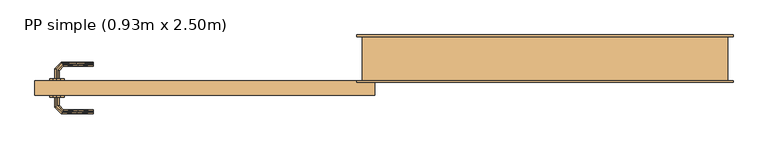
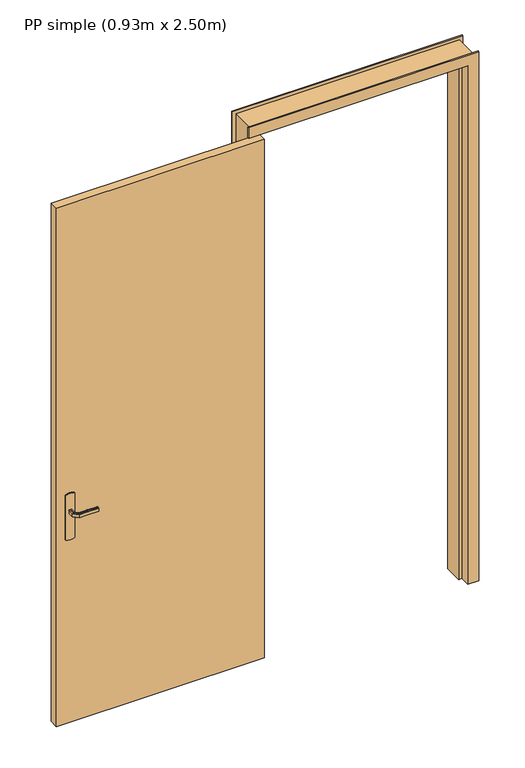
"""IFC4 building model written with IfcOpenShell, lengths in millimetres: door geometry, PP simple (0.93m x 2.50m)."""

from ifc_helpers import new_model, si_unit, frame, origin, origin_with_axes, place, context, project, spatial, polyline, outline, extrude, faceted_brep, source, transform, mapped, element, save


def pp_simple_0_93m_x_2_50m_d067f430(model_context):
    return source(origin(), model_context, "Body", "SolidModel", [
        faceted_brep([(1070.0, 120.0, 0.0), (1070.0, 0.0, 0.0), (1085.0, 0.0, 0.0), (1085.0, -5.0, 0.0), (1035.0, -5.0, 0.0), (1035.0, 40.0, 0.0), (1020.0, 40.0, 0.0), (1020.0, 125.0, 0.0), (1085.0, 125.0, 0.0), (1085.0, 120.0, 0.0), (1070.0, 120.0, 2485.0), (1070.0, 0.0, 2485.0), (1085.0, 120.0, 2500.0), (55.0, 120.0, 2500.0), (55.0, 120.0, 0.0), (70.0, 120.0, 0.0), (70.0, 120.0, 2485.0), (1020.0, 40.0, 2435.0), (1020.0, 125.0, 2435.0), (1035.0, 40.0, 2450.0), (105.0, 40.0, 2450.0), (105.0, 40.0, 0.0), (120.0, 40.0, 0.0), (120.0, 40.0, 2435.0), (70.0, 0.0, 0.0), (70.0, 0.0, 2485.0), (55.0, 125.0, 0.0), (120.0, 125.0, 0.0), (105.0, -5.0, 0.0), (55.0, -5.0, 0.0), (55.0, 0.0, 0.0), (120.0, 125.0, 2435.0), (1035.0, -5.0, 2450.0), (1085.0, -5.0, 2500.0), (55.0, -5.0, 2500.0), (105.0, -5.0, 2450.0), (1085.0, 0.0, 2500.0), (55.0, 0.0, 2500.0), (1085.0, 125.0, 2500.0), (55.0, 125.0, 2500.0)], [[[0, 1, 2, 3, 4, 5, 6, 7, 8, 9]], [[0, 10, 11, 1]], [[9, 12, 13, 14, 15, 16, 10, 0]], [[7, 6, 17, 18]], [[5, 19, 20, 21, 22, 23, 17, 6]], [[16, 15, 24, 25]], [[15, 14, 26, 27, 22, 21, 28, 29, 30, 24]], [[23, 22, 27, 31]], [[10, 16, 25, 11]], [[17, 23, 31, 18]], [[5, 4, 32, 19]], [[3, 33, 34, 29, 28, 35, 32, 4]], [[2, 36, 33, 3]], [[1, 11, 25, 24, 30, 37, 36, 2]], [[8, 38, 12, 9]], [[7, 18, 31, 27, 26, 39, 38, 8]], [[35, 28, 21, 20]], [[37, 30, 29, 34]], [[39, 26, 14, 13]], [[32, 35, 20, 19]], [[36, 37, 34, 33]], [[38, 39, 13, 12]]]),
        faceted_brep([(-762.9747013, -45.0, 992.2195592), (-767.0252987, -45.0, 992.2195592), (-771.0, -45.0, 993.0), (-771.0, -45.0, 1007.0), (-767.0252987, -45.0, 1007.7804408), (-762.9747013, -45.0, 1007.7804408), (-759.0, -45.0, 1007.0), (-759.0, -45.0, 993.0), (-759.0, -67.4852045, 1007.0), (-759.0, -67.4852045, 993.0), (-762.9747013, -69.1315797, 1007.7804408), (-767.0252987, -70.8093921, 1007.7804408), (-750.8389062, -86.9957845, 1007.7804408), (-749.1610938, -82.9451872, 1007.7804408), (-771.0, -72.4557673, 1007.0), (-771.0, -72.4557673, 993.0), (-767.0252987, -70.8093921, 992.2195592), (-762.9747013, -69.1315797, 992.2195592), (-749.1610938, -82.9451872, 992.2195592), (-750.8389062, -86.9957845, 992.2195592), (-747.5147186, -78.9704859, 1007.0), (-747.5147186, -78.9704859, 993.0), (-752.4852814, -90.9704859, 1007.0), (-752.4852814, -90.9704859, 993.0), (-664.9542163, -82.9451872, 1007.7804408), (-664.9542163, -86.9957845, 1007.7804408), (-664.9542163, -90.9704859, 1007.0), (-664.9542163, -90.9704859, 993.0), (-664.9542163, -86.9957845, 992.2195592), (-664.9542163, -82.9451872, 992.2195592), (-664.9542163, -78.9704859, 993.0), (-664.9542163, -78.9704859, 1007.0), (-706.2344675, -78.9704859, 1007.0), (-706.2344794, -78.9704859, 993.0), (-707.0576551, -84.9704859, 1007.8786868), (-712.5547942, -90.9704859, 1007.0), (-712.5547957, -90.9704859, 993.0), (-707.0576549, -84.9704858, 992.1213132)], [[[0, 1, 2, 3, 4, 5, 6, 7]], [[8, 9, 7, 6]], [[5, 10, 8, 6]], [[5, 4, 11, 12, 13, 10]], [[3, 14, 11, 4]], [[14, 3, 2, 15]], [[2, 1, 16, 15]], [[1, 0, 17, 18, 19, 16]], [[0, 7, 9, 17]], [[20, 21, 9, 8]], [[8, 10, 13, 20]], [[14, 22, 12, 11]], [[23, 22, 14, 15]], [[15, 16, 19, 23]], [[17, 9, 21, 18]], [[24, 25, 26, 27, 28, 29, 30, 31]], [[21, 20, 32, 31, 30, 33]], [[34, 24, 32]], [[25, 34, 35]], [[13, 32, 20]], [[24, 31, 32]], [[25, 35, 26]], [[35, 12, 22]], [[34, 12, 35]], [[34, 13, 12]], [[34, 32, 13]], [[24, 34, 25]], [[22, 23, 36, 27, 26, 35]], [[37, 28, 36]], [[36, 28, 27]], [[36, 23, 19]], [[18, 33, 37]], [[33, 18, 21]], [[30, 29, 33]], [[37, 29, 28]], [[37, 33, 29]], [[37, 36, 19]], [[18, 37, 19]]]),
        extrude(outline(polyline([(-825.0, -40.0), (-825.0, 0.0), (105.0, 0.0), (105.0, -40.0), (-825.0, -40.0)])), origin_with_axes(), (0.0, 0.0, 1.0), 2450.0),
        faceted_brep([(-762.9747013, 5.0, 1007.7804408), (-767.0252987, 5.0, 1007.7804408), (-771.0, 5.0, 1007.0), (-771.0, 5.0, 993.0), (-767.0252987, 5.0, 992.2195592), (-762.9747013, 5.0, 992.2195592), (-759.0, 5.0, 993.0), (-759.0, 5.0, 1007.0), (-767.0252987, 31.0045755, 1007.7804408), (-771.0, 32.6509507, 1007.0), (-762.9747013, 29.3267632, 1007.7804408), (-749.2986025, 43.002862, 1007.7804408), (-750.9764148, 47.0534593, 1007.7804408), (-759.0, 27.680388, 1007.0), (-759.0, 27.680388, 993.0), (-762.9747013, 29.3267632, 992.2195592), (-767.0252987, 31.0045755, 992.2195592), (-750.9764148, 47.0534593, 992.2195592), (-749.2986025, 43.002862, 992.2195592), (-771.0, 32.6509507, 993.0), (-752.62279, 51.0281607, 1007.0), (-747.6522273, 39.0281607, 1007.0), (-747.6522273, 39.0281607, 993.0), (-752.62279, 51.0281607, 993.0), (-664.9813594, 51.0281607, 1007.0), (-664.9813594, 47.0534593, 1007.7804408), (-664.9813594, 43.002862, 1007.7804408), (-664.9813594, 39.0281607, 1007.0), (-664.9813594, 39.0281607, 993.0), (-664.9813594, 43.002862, 992.2195592), (-664.9813594, 47.0534593, 992.2195592), (-664.9813594, 51.0281607, 993.0), (-707.1399809, 45.0281607, 1007.8786868), (-712.6923028, 51.0281607, 1007.0), (-706.3167933, 39.0281607, 1007.0), (-706.3167933, 39.0281607, 993.0), (-707.1399811, 45.0281608, 992.1213132), (-712.6923104, 51.0281607, 993.0)], [[[0, 1, 2, 3, 4, 5, 6, 7]], [[2, 1, 8, 9]], [[1, 0, 10, 11, 12, 8]], [[0, 7, 13, 10]], [[14, 13, 7, 6]], [[5, 15, 14, 6]], [[5, 4, 16, 17, 18, 15]], [[3, 19, 16, 4]], [[9, 19, 3, 2]], [[9, 8, 12, 20]], [[10, 13, 21, 11]], [[22, 21, 13, 14]], [[14, 15, 18, 22]], [[16, 19, 23, 17]], [[20, 23, 19, 9]], [[24, 25, 26, 27, 28, 29, 30, 31]], [[32, 25, 33]], [[33, 25, 24]], [[33, 20, 12]], [[11, 34, 32]], [[34, 11, 21]], [[27, 26, 34]], [[32, 26, 25]], [[32, 34, 26]], [[32, 33, 12]], [[11, 32, 12]], [[21, 22, 35, 28, 27, 34]], [[36, 29, 35]], [[30, 36, 37]], [[18, 35, 22]], [[29, 28, 35]], [[30, 37, 31]], [[37, 17, 23]], [[36, 17, 37]], [[36, 18, 17]], [[36, 35, 18]], [[29, 36, 30]], [[23, 20, 33, 24, 31, 37]]]),
        extrude(outline(polyline([(1085.3589838, -765.0), (1083.9960169, -775.3527618), (1080.0, -785.0), (870.0, -785.0), (866.0039831, -775.3527618), (864.6410162, -765.0), (866.0039831, -754.6472382), (870.0, -745.0), (1080.0, -745.0), (1083.9960169, -754.6472382), (1085.3589838, -765.0)])), frame((0.0, -45.0, 0.0), z_axis=(0.0, 1.0, 0.0), x_axis=(0.0, 0.0, 1.0)), (0.0, 0.0, 1.0), 5.0),
        extrude(outline(polyline([(1080.0, -785.0), (870.0, -785.0), (866.0039831, -775.3527618), (864.6410162, -765.0), (866.0039831, -754.6472382), (870.0, -745.0), (1080.0, -745.0), (1083.9960169, -754.6472382), (1085.3589838, -765.0), (1083.9960169, -775.3527618), (1080.0, -785.0)])), frame((0.0, 0.0, 0.0), z_axis=(0.0, 1.0, 0.0), x_axis=(0.0, 0.0, 1.0)), (0.0, 0.0, 1.0), 5.0),
    ])


if __name__ == "__main__":
    model = new_model("IFC4")
    model_context = context("Model", 3, world=origin())
    ifc_project = project(units=[si_unit("LENGTHUNIT", "METRE", prefix="MILLI")], contexts=[model_context])
    site = spatial("IfcSite", under=ifc_project)
    building = spatial("IfcBuilding", under=site)
    placement = place(None, origin())
    pp_simple_0_93m_x_2_50m_shape = pp_simple_0_93m_x_2_50m_d067f430(model_context)
    element("IfcDoor", 1, ObjectType="PP simple (0.93m x 2.50m)", at=placement, inside=building, context=model_context, shape_type="MappedRepresentation", body=[
        mapped(pp_simple_0_93m_x_2_50m_shape, transform((0.0, 0.0, 0.0), x_axis=(1.0, 0.0, 0.0), y_axis=(0.0, 1.0, 0.0), z_axis=(0.0, 0.0, 1.0))),
    ])
    save(model, "model.ifc")
